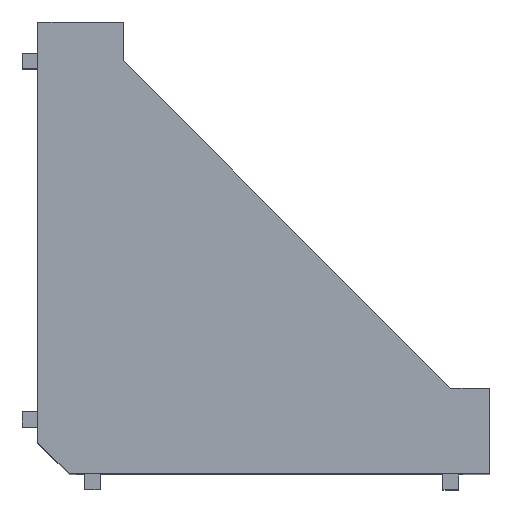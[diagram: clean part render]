
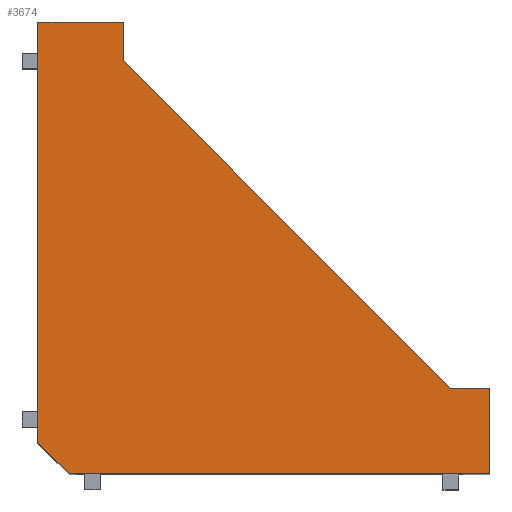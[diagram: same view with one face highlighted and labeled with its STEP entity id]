
A CAD part, top view. The second image highlights one B-rep face of the part: STEP entity #3674.
In plain terms, the highlighted planar face has unit normal (0, 0, 1).
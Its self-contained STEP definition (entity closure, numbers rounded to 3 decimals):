
#46 = VERTEX_POINT ( 'NONE', #2095 ) ;
#53 = CARTESIAN_POINT ( 'NONE',  ( 11., 58., 29. ) ) ;
#196 = VERTEX_POINT ( 'NONE', #448 ) ;
#232 = EDGE_CURVE ( 'NONE', #2871, #196, #1325, .T. ) ;
#244 = CARTESIAN_POINT ( 'NONE',  ( 11., 53., 29. ) ) ;
#271 = CARTESIAN_POINT ( 'NONE',  ( 0., 58., 29. ) ) ;
#305 = ORIENTED_EDGE ( 'NONE', *, *, #2135, .T. ) ;
#356 = CARTESIAN_POINT ( 'NONE',  ( 11., 58., 29. ) ) ;
#440 = EDGE_CURVE ( 'NONE', #2054, #2609, #2718, .T. ) ;
#448 = CARTESIAN_POINT ( 'NONE',  ( 58., 11., 29. ) ) ;
#455 = CARTESIAN_POINT ( 'NONE',  ( 0., 4., 29. ) ) ;
#475 = DIRECTION ( 'NONE',  ( 0., 1., 0. ) ) ;
#513 = LINE ( 'NONE', #53, #3858 ) ;
#644 = VERTEX_POINT ( 'NONE', #356 ) ;
#682 = LINE ( 'NONE', #244, #3402 ) ;
#734 = ORIENTED_EDGE ( 'NONE', *, *, #2442, .T. ) ;
#804 = EDGE_CURVE ( 'NONE', #2371, #644, #513, .T. ) ;
#937 = CARTESIAN_POINT ( 'NONE',  ( 58., 5., 29. ) ) ;
#1007 = ORIENTED_EDGE ( 'NONE', *, *, #440, .T. ) ;
#1028 = VECTOR ( 'NONE', #475, 1000. ) ;
#1110 = FACE_OUTER_BOUND ( 'NONE', #2163, .T. ) ;
#1225 = DIRECTION ( 'NONE',  ( 0., -1., 0. ) ) ;
#1325 = LINE ( 'NONE', #937, #1028 ) ;
#1337 = ORIENTED_EDGE ( 'NONE', *, *, #1714, .T. ) ;
#1461 = ORIENTED_EDGE ( 'NONE', *, *, #2939, .T. ) ;
#1634 = CARTESIAN_POINT ( 'NONE',  ( 0., 0., 29. ) ) ;
#1693 = DIRECTION ( 'NONE',  ( -1., 0., 0. ) ) ;
#1714 = EDGE_CURVE ( 'NONE', #644, #46, #2530, .T. ) ;
#1781 = VERTEX_POINT ( 'NONE', #4071 ) ;
#1818 = VECTOR ( 'NONE', #1225, 1000. ) ;
#1904 = DIRECTION ( 'NONE',  ( 0.707, -0.707, 0. ) ) ;
#2027 = VECTOR ( 'NONE', #3220, 1000. ) ;
#2033 = VECTOR ( 'NONE', #1693, 1000. ) ;
#2041 = CARTESIAN_POINT ( 'NONE',  ( 58., 0., 29. ) ) ;
#2049 = LINE ( 'NONE', #1634, #1818 ) ;
#2054 = VERTEX_POINT ( 'NONE', #455 ) ;
#2095 = CARTESIAN_POINT ( 'NONE',  ( 0., 58., 29. ) ) ;
#2117 = CARTESIAN_POINT ( 'NONE',  ( 0., 58., 29. ) ) ;
#2135 = EDGE_CURVE ( 'NONE', #196, #1781, #3611, .T. ) ;
#2163 = EDGE_LOOP ( 'NONE', ( #734, #1007, #3330, #2478, #305, #1461, #3618, #1337 ) ) ;
#2302 = CARTESIAN_POINT ( 'NONE',  ( 0., 4., 29. ) ) ;
#2371 = VERTEX_POINT ( 'NONE', #3157 ) ;
#2442 = EDGE_CURVE ( 'NONE', #46, #2054, #2049, .T. ) ;
#2478 = ORIENTED_EDGE ( 'NONE', *, *, #232, .T. ) ;
#2530 = LINE ( 'NONE', #2117, #2033 ) ;
#2574 = AXIS2_PLACEMENT_3D ( 'NONE', #271, #3906, #3502 ) ;
#2609 = VERTEX_POINT ( 'NONE', #3606 ) ;
#2667 = EDGE_CURVE ( 'NONE', #2609, #2871, #4033, .T. ) ;
#2718 = LINE ( 'NONE', #2302, #3504 ) ;
#2737 = VECTOR ( 'NONE', #2806, 1000. ) ;
#2806 = DIRECTION ( 'NONE',  ( -1., 0., 0. ) ) ;
#2871 = VERTEX_POINT ( 'NONE', #2041 ) ;
#2882 = PLANE ( 'NONE',  #2574 ) ;
#2939 = EDGE_CURVE ( 'NONE', #1781, #2371, #682, .T. ) ;
#3157 = CARTESIAN_POINT ( 'NONE',  ( 11., 53., 29. ) ) ;
#3201 = CARTESIAN_POINT ( 'NONE',  ( 53., 11., 29. ) ) ;
#3220 = DIRECTION ( 'NONE',  ( 1., 0., 0. ) ) ;
#3330 = ORIENTED_EDGE ( 'NONE', *, *, #2667, .T. ) ;
#3402 = VECTOR ( 'NONE', #3880, 1000. ) ;
#3502 = DIRECTION ( 'NONE',  ( -1., 0., 0. ) ) ;
#3504 = VECTOR ( 'NONE', #1904, 1000. ) ;
#3606 = CARTESIAN_POINT ( 'NONE',  ( 4., 0., 29. ) ) ;
#3611 = LINE ( 'NONE', #3201, #2737 ) ;
#3618 = ORIENTED_EDGE ( 'NONE', *, *, #804, .T. ) ;
#3625 = CARTESIAN_POINT ( 'NONE',  ( 58., 0., 29. ) ) ;
#3674 = ADVANCED_FACE ( 'NONE', ( #1110 ), #2882, .F. ) ;
#3735 = DIRECTION ( 'NONE',  ( 0., 1., 0. ) ) ;
#3858 = VECTOR ( 'NONE', #3735, 1000. ) ;
#3880 = DIRECTION ( 'NONE',  ( -0.707, 0.707, 0. ) ) ;
#3906 = DIRECTION ( 'NONE',  ( 0., 0., -1. ) ) ;
#4033 = LINE ( 'NONE', #3625, #2027 ) ;
#4071 = CARTESIAN_POINT ( 'NONE',  ( 53., 11., 29. ) ) ;
